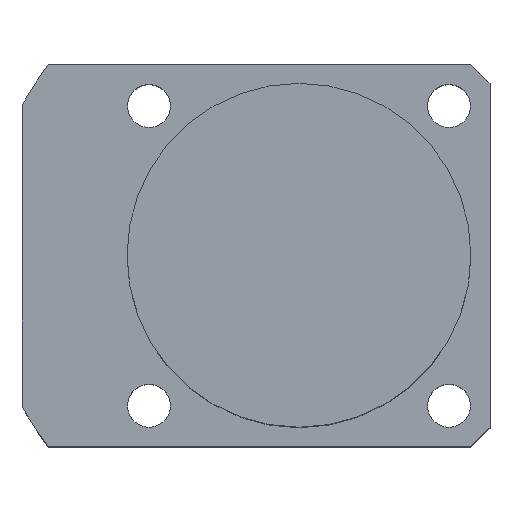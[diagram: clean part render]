
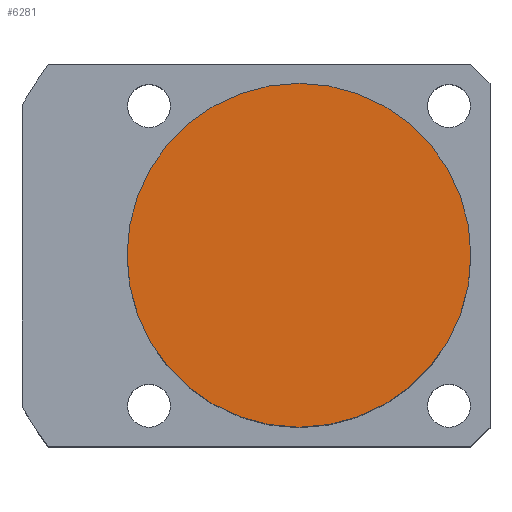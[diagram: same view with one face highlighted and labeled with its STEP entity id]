
A CAD part, top view. The second image highlights one B-rep face of the part: STEP entity #6281.
In plain terms, the highlighted planar face has unit normal (0, 0, 1).
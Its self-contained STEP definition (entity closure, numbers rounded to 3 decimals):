
#6225=CARTESIAN_POINT('',(0.0,-18.0,43.5));
#6226=VERTEX_POINT('',#6225);
#6233=CARTESIAN_POINT('',(-0.0,18.0,43.5));
#6234=VERTEX_POINT('',#6233);
#6235=CARTESIAN_POINT('',(0.0,0.0,43.5));
#6236=DIRECTION('',(0.0,0.0,1.0));
#6237=DIRECTION('',(1.0,0.0,0.0));
#6238=AXIS2_PLACEMENT_3D('',#6235,#6236,#6237);
#6239=CIRCLE('',#6238,18.0);
#6240=EDGE_CURVE('no 3779',#6234,#6226,#6239,.T.);
#6257=CARTESIAN_POINT('',(18.0,0.0,43.5));
#6258=VERTEX_POINT('',#6257);
#6259=CARTESIAN_POINT('',(0.0,0.0,43.5));
#6260=DIRECTION('',(0.0,0.0,1.0));
#6261=DIRECTION('',(1.0,0.0,0.0));
#6262=AXIS2_PLACEMENT_3D('',#6259,#6260,#6261);
#6263=CIRCLE('',#6262,18.0);
#6264=EDGE_CURVE('no 3794',#6258,#6234,#6263,.T.);
#6265=ORIENTED_EDGE('',*,*,#6264,.T.);
#6266=ORIENTED_EDGE('',*,*,#6240,.T.);
#6267=CARTESIAN_POINT('',(0.0,0.0,43.5));
#6268=DIRECTION('',(0.0,0.0,1.0));
#6269=DIRECTION('',(1.0,0.0,0.0));
#6270=AXIS2_PLACEMENT_3D('',#6267,#6268,#6269);
#6271=CIRCLE('',#6270,18.0);
#6272=EDGE_CURVE('no 3800',#6226,#6258,#6271,.T.);
#6273=ORIENTED_EDGE('',*,*,#6272,.T.);
#6274=EDGE_LOOP('',(#6265,#6266,#6273));
#6275=FACE_OUTER_BOUND('',#6274,.T.);
#6276=CARTESIAN_POINT('',(0.0,0.0,43.5));
#6277=DIRECTION('',(0.0,0.0,1.0));
#6278=DIRECTION('',(1.0,0.0,0.0));
#6279=AXIS2_PLACEMENT_3D('',#6276,#6277,#6278);
#6280=PLANE('',#6279);
#6281=ADVANCED_FACE('no 3787',(#6275),#6280,.T.);
